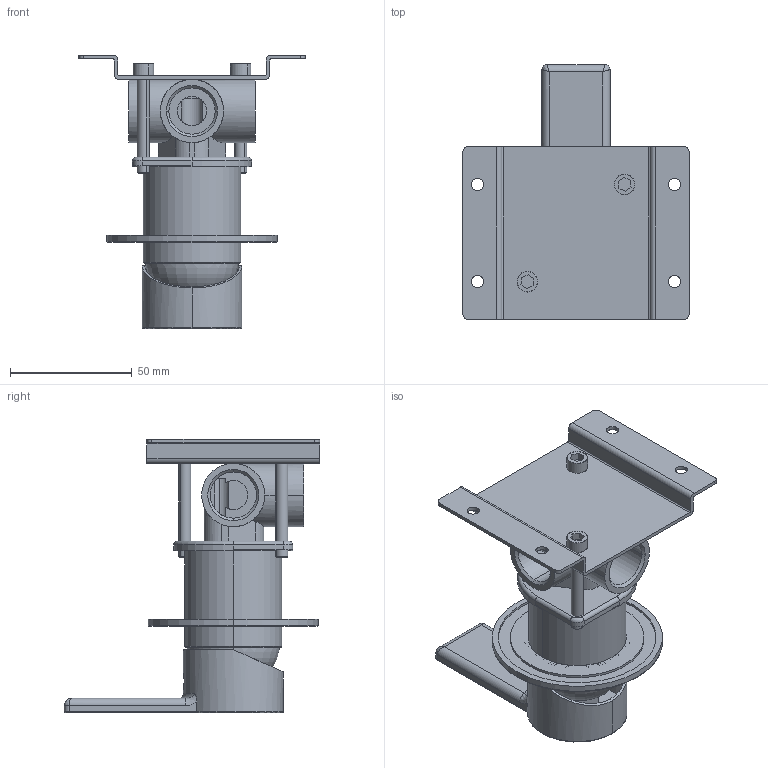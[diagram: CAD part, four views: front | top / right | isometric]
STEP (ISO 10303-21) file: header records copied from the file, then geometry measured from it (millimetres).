
FILE_DESCRIPTION (( 'STEP AP203' ), '1' );
FILE_NAME ('JAG38.STEP', '2024-05-21T07:41:25', ( '' ), ( '' ), 'SwSTEP 2.0', 'SolidWorks 2023', '' );
FILE_SCHEMA (( 'CONFIG_CONTROL_DESIGN' ));
Length unit declared in the file: millimetre
Products named in the file (11): C47.00.0015; C10.00.0015; C31.00.0006.01; C50.00.0038.00; JAG38; C12.00.0036; C23.2074.00.1; C11.10.0022; C24.1837.00.0; C24.2664.00; C25.1081.00.0_DefaultSviluppo
Assembly tree (11 placements, depth 2):
  JAG38
    C10.00.0015
    C50.00.0038.00
    C47.00.0015
    C25.1081.00.0_DefaultSviluppo
    C11.10.0022  x2
    C24.1837.00.0
    C31.00.0006.01
    C24.2664.00
    C12.00.0036
    C23.2074.00.1
Bounding box: 93 x 104.95 x 112.6 mm (x, y, z)
Volume: 115912.2 mm3; surface area: 80388.9 mm2
Topology: 12 solids, 12 shells, 418 faces, 987 edges, 614 vertices
Faces by surface type: cylinder 172, plane 159, cone 44, torus 39, bspline 4
Entity records: 13283 total; most frequent: CARTESIAN_POINT 2712, DIRECTION 2086, ORIENTED_EDGE 1874, EDGE_CURVE 937, AXIS2_PLACEMENT_3D 822, VERTEX_POINT 588, EDGE_LOOP 465, LINE 442
